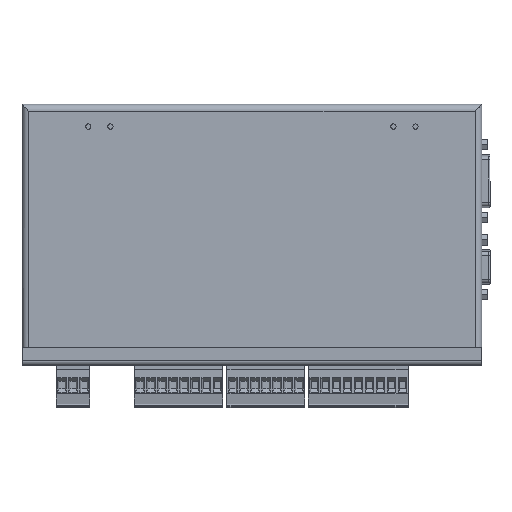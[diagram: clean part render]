
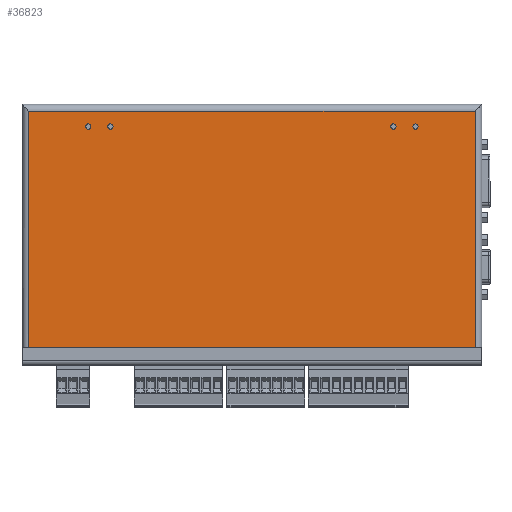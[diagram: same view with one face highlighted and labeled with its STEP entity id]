
A CAD part, top view. The second image highlights one B-rep face of the part: STEP entity #36823.
In plain terms, the highlighted planar face has unit normal (0, 0, 1).
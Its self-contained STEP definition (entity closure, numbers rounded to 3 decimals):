
#5988 = ORIENTED_EDGE ( 'NONE', *, *, #29561, .F. ) ;
#5989 = ORIENTED_EDGE ( 'NONE', *, *, #29560, .T. ) ;
#5990 = ORIENTED_EDGE ( 'NONE', *, *, #29551, .T. ) ;
#5991 = ORIENTED_EDGE ( 'NONE', *, *, #29562, .T. ) ;
#5992 = ORIENTED_EDGE ( 'NONE', *, *, #29559, .F. ) ;
#5993 = ORIENTED_EDGE ( 'NONE', *, *, #29547, .F. ) ;
#5994 = ORIENTED_EDGE ( 'NONE', *, *, #29563, .F. ) ;
#5995 = ORIENTED_EDGE ( 'NONE', *, *, #29546, .F. ) ;
#5996 = ORIENTED_EDGE ( 'NONE', *, *, #29555, .F. ) ;
#5997 = ORIENTED_EDGE ( 'NONE', *, *, #29545, .F. ) ;
#5998 = ORIENTED_EDGE ( 'NONE', *, *, #29564, .F. ) ;
#5999 = ORIENTED_EDGE ( 'NONE', *, *, #29541, .F. ) ;
#7850 = CIRCLE ( 'NONE', #11458, 1.2 ) ;
#7852 = LINE ( 'NONE', #39494, #7877 ) ;
#7863 = CIRCLE ( 'NONE', #11460, 1.2 ) ;
#7866 = CIRCLE ( 'NONE', #11463, 1.2 ) ;
#7870 = CIRCLE ( 'NONE', #11461, 1.2 ) ;
#7877 = VECTOR ( 'NONE', #39498, 1000. ) ;
#7893 = LINE ( 'NONE', #39519, #7897 ) ;
#7895 = CIRCLE ( 'NONE', #11467, 1.2 ) ;
#7897 = VECTOR ( 'NONE', #39520, 1000. ) ;
#7908 = CIRCLE ( 'NONE', #11465, 1.2 ) ;
#7910 = LINE ( 'NONE', #39521, #7912 ) ;
#7912 = VECTOR ( 'NONE', #39522, 1000. ) ;
#7913 = LINE ( 'NONE', #39523, #7915 ) ;
#7915 = VECTOR ( 'NONE', #39524, 1000. ) ;
#7920 = CIRCLE ( 'NONE', #11471, 1.2 ) ;
#7923 = CIRCLE ( 'NONE', #11468, 1.2 ) ;
#11458 = AXIS2_PLACEMENT_3D ( 'NONE', #39463, #39472, #39473 ) ;
#11460 = AXIS2_PLACEMENT_3D ( 'NONE', #39481, #39482, #39483 ) ;
#11461 = AXIS2_PLACEMENT_3D ( 'NONE', #39487, #39488, #39489 ) ;
#11463 = AXIS2_PLACEMENT_3D ( 'NONE', #39484, #39485, #39486 ) ;
#11465 = AXIS2_PLACEMENT_3D ( 'NONE', #39515, #39517, #39518 ) ;
#11467 = AXIS2_PLACEMENT_3D ( 'NONE', #39505, #39507, #39508 ) ;
#11468 = AXIS2_PLACEMENT_3D ( 'NONE', #39516, #39528, #39529 ) ;
#11471 = AXIS2_PLACEMENT_3D ( 'NONE', #39513, #39526, #39527 ) ;
#16957 = VERTEX_POINT ( 'NONE', #36527 ) ;
#16966 = VERTEX_POINT ( 'NONE', #36553 ) ;
#16975 = VERTEX_POINT ( 'NONE', #36561 ) ;
#16984 = VERTEX_POINT ( 'NONE', #36569 ) ;
#16996 = VERTEX_POINT ( 'NONE', #36580 ) ;
#17002 = VERTEX_POINT ( 'NONE', #36579 ) ;
#17005 = VERTEX_POINT ( 'NONE', #36588 ) ;
#17007 = VERTEX_POINT ( 'NONE', #36590 ) ;
#17018 = VERTEX_POINT ( 'NONE', #36600 ) ;
#17027 = VERTEX_POINT ( 'NONE', #36608 ) ;
#17029 = VERTEX_POINT ( 'NONE', #36610 ) ;
#17040 = VERTEX_POINT ( 'NONE', #36619 ) ;
#20466 = FACE_OUTER_BOUND ( 'NONE', #44344, .T. ) ;
#20467 = FACE_BOUND ( 'NONE', #44357, .T. ) ;
#20474 = FACE_BOUND ( 'NONE', #44350, .T. ) ;
#20476 = FACE_BOUND ( 'NONE', #44353, .T. ) ;
#20478 = FACE_BOUND ( 'NONE', #44355, .T. ) ;
#21302 = CARTESIAN_POINT ( 'NONE',  ( -104., -59., 15. ) ) ;
#21304 = PLANE ( 'NONE',  #44778 ) ;
#21322 = DIRECTION ( 'NONE',  ( 0., 0., 1. ) ) ;
#21324 = DIRECTION ( 'NONE',  ( 1., 0., 0. ) ) ;
#29541 = EDGE_CURVE ( 'NONE', #16996, #17002, #7850, .T. ) ;
#29545 = EDGE_CURVE ( 'NONE', #17018, #17040, #7863, .T. ) ;
#29546 = EDGE_CURVE ( 'NONE', #17027, #17029, #7866, .T. ) ;
#29547 = EDGE_CURVE ( 'NONE', #17005, #17007, #7870, .T. ) ;
#29551 = EDGE_CURVE ( 'NONE', #16966, #16957, #7852, .T. ) ;
#29555 = EDGE_CURVE ( 'NONE', #17040, #17018, #7895, .T. ) ;
#29559 = EDGE_CURVE ( 'NONE', #17007, #17005, #7908, .T. ) ;
#29560 = EDGE_CURVE ( 'NONE', #16984, #16966, #7893, .T. ) ;
#29561 = EDGE_CURVE ( 'NONE', #16984, #16975, #7910, .T. ) ;
#29562 = EDGE_CURVE ( 'NONE', #16957, #16975, #7913, .T. ) ;
#29563 = EDGE_CURVE ( 'NONE', #17029, #17027, #7920, .T. ) ;
#29564 = EDGE_CURVE ( 'NONE', #17002, #16996, #7923, .T. ) ;
#36527 = CARTESIAN_POINT ( 'NONE',  ( -101., 56., 15. ) ) ;
#36553 = CARTESIAN_POINT ( 'NONE',  ( 101., 56., 15. ) ) ;
#36561 = CARTESIAN_POINT ( 'NONE',  ( -101., -51., 15. ) ) ;
#36569 = CARTESIAN_POINT ( 'NONE',  ( 101., -51., 15. ) ) ;
#36579 = CARTESIAN_POINT ( 'NONE',  ( 75.2, 49., 15. ) ) ;
#36580 = CARTESIAN_POINT ( 'NONE',  ( 72.8, 49., 15. ) ) ;
#36588 = CARTESIAN_POINT ( 'NONE',  ( -75.2, 49., 15. ) ) ;
#36590 = CARTESIAN_POINT ( 'NONE',  ( -72.8, 49., 15. ) ) ;
#36600 = CARTESIAN_POINT ( 'NONE',  ( 62.8, 49., 15. ) ) ;
#36608 = CARTESIAN_POINT ( 'NONE',  ( -65.2, 49., 15. ) ) ;
#36610 = CARTESIAN_POINT ( 'NONE',  ( -62.8, 49., 15. ) ) ;
#36619 = CARTESIAN_POINT ( 'NONE',  ( 65.2, 49., 15. ) ) ;
#36823 = ADVANCED_FACE ( 'NONE', ( #20466, #20474, #20476, #20478, #20467 ), #21304, .T. ) ;
#39463 = CARTESIAN_POINT ( 'NONE',  ( 74., 49., 15. ) ) ;
#39472 = DIRECTION ( 'NONE',  ( 0., 0., 1. ) ) ;
#39473 = DIRECTION ( 'NONE',  ( -1., 0., 0. ) ) ;
#39481 = CARTESIAN_POINT ( 'NONE',  ( 64., 49., 15. ) ) ;
#39482 = DIRECTION ( 'NONE',  ( 0., 0., 1. ) ) ;
#39483 = DIRECTION ( 'NONE',  ( -1., 0., 0. ) ) ;
#39484 = CARTESIAN_POINT ( 'NONE',  ( -64., 49., 15. ) ) ;
#39485 = DIRECTION ( 'NONE',  ( 0., 0., 1. ) ) ;
#39486 = DIRECTION ( 'NONE',  ( 1., 0., 0. ) ) ;
#39487 = CARTESIAN_POINT ( 'NONE',  ( -74., 49., 15. ) ) ;
#39488 = DIRECTION ( 'NONE',  ( 0., 0., 1. ) ) ;
#39489 = DIRECTION ( 'NONE',  ( 1., 0., 0. ) ) ;
#39494 = CARTESIAN_POINT ( 'NONE',  ( -104., 56., 15. ) ) ;
#39498 = DIRECTION ( 'NONE',  ( -1., 0., 0. ) ) ;
#39505 = CARTESIAN_POINT ( 'NONE',  ( 64., 49., 15. ) ) ;
#39507 = DIRECTION ( 'NONE',  ( 0., 0., 1. ) ) ;
#39508 = DIRECTION ( 'NONE',  ( -1., 0., 0. ) ) ;
#39513 = CARTESIAN_POINT ( 'NONE',  ( -64., 49., 15. ) ) ;
#39515 = CARTESIAN_POINT ( 'NONE',  ( -74., 49., 15. ) ) ;
#39516 = CARTESIAN_POINT ( 'NONE',  ( 74., 49., 15. ) ) ;
#39517 = DIRECTION ( 'NONE',  ( 0., 0., 1. ) ) ;
#39518 = DIRECTION ( 'NONE',  ( 1., 0., 0. ) ) ;
#39519 = CARTESIAN_POINT ( 'NONE',  ( 101., 59., 15. ) ) ;
#39520 = DIRECTION ( 'NONE',  ( 0., 1., 0. ) ) ;
#39521 = CARTESIAN_POINT ( 'NONE',  ( -104., -51., 15. ) ) ;
#39522 = DIRECTION ( 'NONE',  ( -1., 0., 0. ) ) ;
#39523 = CARTESIAN_POINT ( 'NONE',  ( -101., -51., 15. ) ) ;
#39524 = DIRECTION ( 'NONE',  ( 0., -1., 0. ) ) ;
#39526 = DIRECTION ( 'NONE',  ( 0., 0., 1. ) ) ;
#39527 = DIRECTION ( 'NONE',  ( 1., 0., 0. ) ) ;
#39528 = DIRECTION ( 'NONE',  ( 0., 0., 1. ) ) ;
#39529 = DIRECTION ( 'NONE',  ( -1., 0., 0. ) ) ;
#44344 = EDGE_LOOP ( 'NONE', ( #5988, #5989, #5990, #5991 ) ) ;
#44350 = EDGE_LOOP ( 'NONE', ( #5992, #5993 ) ) ;
#44353 = EDGE_LOOP ( 'NONE', ( #5994, #5995 ) ) ;
#44355 = EDGE_LOOP ( 'NONE', ( #5996, #5997 ) ) ;
#44357 = EDGE_LOOP ( 'NONE', ( #5998, #5999 ) ) ;
#44778 = AXIS2_PLACEMENT_3D ( 'NONE', #21302, #21322, #21324 ) ;
